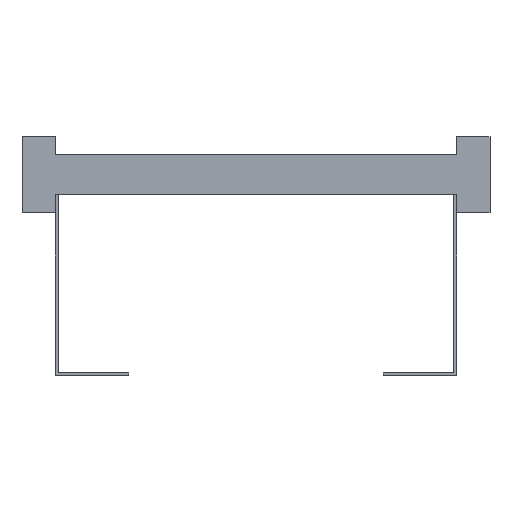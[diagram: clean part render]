
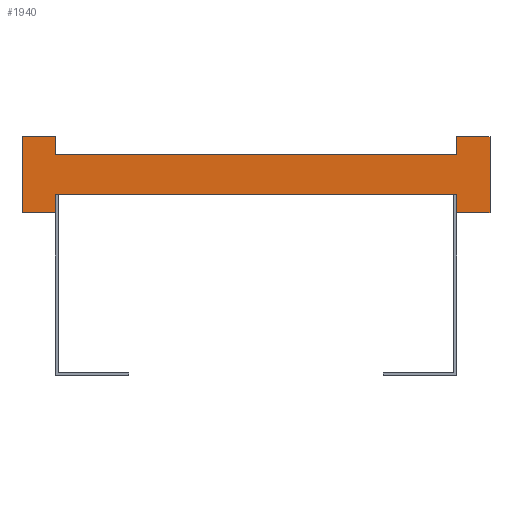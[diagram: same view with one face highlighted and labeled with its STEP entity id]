
A CAD part, front view. The second image highlights one B-rep face of the part: STEP entity #1940.
In plain terms, the highlighted planar face has unit normal (0, -1, 0).
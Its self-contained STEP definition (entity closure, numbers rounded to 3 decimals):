
#1=DIRECTION('',(0.,0.,1.));
#2=VECTOR('',#1,13.5);
#3=CARTESIAN_POINT('',(150.,0.,-28.5));
#4=LINE('',#3,#2);
#5=DIRECTION('',(0.,0.,-1.));
#6=VECTOR('',#5,13.5);
#7=CARTESIAN_POINT('',(-150.,0.,-15.));
#8=LINE('',#7,#6);
#9=DIRECTION('',(-1.,0.,0.));
#10=VECTOR('',#9,25.);
#11=CARTESIAN_POINT('',(-150.,0.,-28.5));
#12=LINE('',#11,#10);
#13=DIRECTION('',(0.,0.,1.));
#14=VECTOR('',#13,57.);
#15=CARTESIAN_POINT('',(-175.,0.,-28.5));
#16=LINE('',#15,#14);
#17=DIRECTION('',(1.,0.,0.));
#18=VECTOR('',#17,25.);
#19=CARTESIAN_POINT('',(-175.,0.,28.5));
#20=LINE('',#19,#18);
#21=DIRECTION('',(0.,0.,-1.));
#22=VECTOR('',#21,13.5);
#23=CARTESIAN_POINT('',(-150.,0.,28.5));
#24=LINE('',#23,#22);
#25=DIRECTION('',(0.,0.,1.));
#26=VECTOR('',#25,13.5);
#27=CARTESIAN_POINT('',(150.,0.,15.));
#28=LINE('',#27,#26);
#29=DIRECTION('',(1.,0.,0.));
#30=VECTOR('',#29,25.);
#31=CARTESIAN_POINT('',(150.,0.,28.5));
#32=LINE('',#31,#30);
#33=DIRECTION('',(0.,0.,-1.));
#34=VECTOR('',#33,57.);
#35=CARTESIAN_POINT('',(175.,0.,28.5));
#36=LINE('',#35,#34);
#37=DIRECTION('',(-1.,0.,0.));
#38=VECTOR('',#37,25.);
#39=CARTESIAN_POINT('',(175.,0.,-28.5));
#40=LINE('',#39,#38);
#1425=DIRECTION('',(1.,0.,0.));
#1426=VECTOR('',#1425,300.);
#1427=CARTESIAN_POINT('',(-150.,0.,-15.));
#1428=LINE('',#1427,#1426);
#1437=DIRECTION('',(1.,0.,0.));
#1438=VECTOR('',#1437,300.);
#1439=CARTESIAN_POINT('',(-150.,0.,15.));
#1440=LINE('',#1439,#1438);
#1441=CARTESIAN_POINT('',(-175.,0.,28.5));
#1442=CARTESIAN_POINT('',(-150.,0.,28.5));
#1443=VERTEX_POINT('',#1441);
#1444=VERTEX_POINT('',#1442);
#1445=CARTESIAN_POINT('',(-150.,0.,-28.5));
#1446=CARTESIAN_POINT('',(-175.,0.,-28.5));
#1447=VERTEX_POINT('',#1445);
#1448=VERTEX_POINT('',#1446);
#1449=CARTESIAN_POINT('',(175.,0.,28.5));
#1450=CARTESIAN_POINT('',(175.,0.,-28.5));
#1451=VERTEX_POINT('',#1449);
#1452=VERTEX_POINT('',#1450);
#1453=CARTESIAN_POINT('',(150.,0.,-28.5));
#1454=VERTEX_POINT('',#1453);
#1455=CARTESIAN_POINT('',(150.,0.,28.5));
#1456=VERTEX_POINT('',#1455);
#1473=CARTESIAN_POINT('',(-150.,0.,-15.));
#1475=VERTEX_POINT('',#1473);
#1477=CARTESIAN_POINT('',(-150.,0.,15.));
#1479=VERTEX_POINT('',#1477);
#1481=CARTESIAN_POINT('',(150.,0.,-15.));
#1483=VERTEX_POINT('',#1481);
#1485=CARTESIAN_POINT('',(150.,0.,15.));
#1487=VERTEX_POINT('',#1485);
#1909=CARTESIAN_POINT('',(0.,0.,0.));
#1910=DIRECTION('',(0.,1.,0.));
#1911=DIRECTION('',(1.,0.,0.));
#1912=AXIS2_PLACEMENT_3D('',#1909,#1910,#1911);
#1913=PLANE('',#1912);
#1915=ORIENTED_EDGE('',*,*,#1914,.T.);
#1917=ORIENTED_EDGE('',*,*,#1916,.F.);
#1919=ORIENTED_EDGE('',*,*,#1918,.T.);
#1921=ORIENTED_EDGE('',*,*,#1920,.T.);
#1923=ORIENTED_EDGE('',*,*,#1922,.T.);
#1925=ORIENTED_EDGE('',*,*,#1924,.T.);
#1927=ORIENTED_EDGE('',*,*,#1926,.T.);
#1929=ORIENTED_EDGE('',*,*,#1928,.T.);
#1931=ORIENTED_EDGE('',*,*,#1930,.T.);
#1933=ORIENTED_EDGE('',*,*,#1932,.T.);
#1935=ORIENTED_EDGE('',*,*,#1934,.T.);
#1937=ORIENTED_EDGE('',*,*,#1936,.T.);
#1938=EDGE_LOOP('',(#1915,#1917,#1919,#1921,#1923,#1925,#1927,#1929,#1931,#1933,
#1935,#1937));
#1939=FACE_OUTER_BOUND('',#1938,.F.);
#1940=ADVANCED_FACE('',(#1939),#1913,.F.);
#1914=EDGE_CURVE('',#1454,#1483,#4,.T.);
#1916=EDGE_CURVE('',#1475,#1483,#1428,.T.);
#1918=EDGE_CURVE('',#1475,#1447,#8,.T.);
#1920=EDGE_CURVE('',#1447,#1448,#12,.T.);
#1922=EDGE_CURVE('',#1448,#1443,#16,.T.);
#1924=EDGE_CURVE('',#1443,#1444,#20,.T.);
#1926=EDGE_CURVE('',#1444,#1479,#24,.T.);
#1928=EDGE_CURVE('',#1479,#1487,#1440,.T.);
#1930=EDGE_CURVE('',#1487,#1456,#28,.T.);
#1932=EDGE_CURVE('',#1456,#1451,#32,.T.);
#1934=EDGE_CURVE('',#1451,#1452,#36,.T.);
#1936=EDGE_CURVE('',#1452,#1454,#40,.T.);
